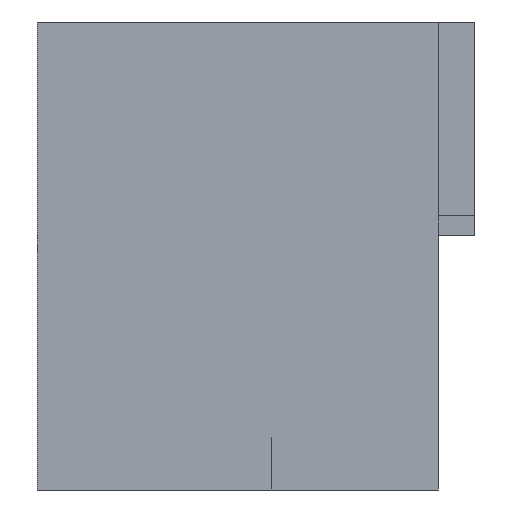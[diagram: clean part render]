
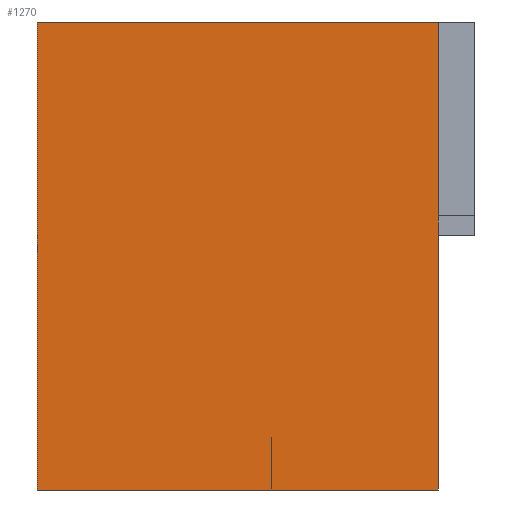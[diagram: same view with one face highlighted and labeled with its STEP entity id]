
A CAD part, front view. The second image highlights one B-rep face of the part: STEP entity #1270.
In plain terms, the highlighted planar face has unit normal (0, -1, 0).
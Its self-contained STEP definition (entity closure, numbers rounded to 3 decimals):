
#72 = PLANE('',#73);
#73 = AXIS2_PLACEMENT_3D('',#74,#75,#76);
#74 = CARTESIAN_POINT('',(38.5,14.2,1.6));
#75 = DIRECTION('',(1.,0.,0.));
#76 = DIRECTION('',(0.,0.,1.));
#100 = PLANE('',#101);
#101 = AXIS2_PLACEMENT_3D('',#102,#103,#104);
#102 = CARTESIAN_POINT('',(30.5,12.5,8.6));
#103 = DIRECTION('',(0.,0.,1.));
#104 = DIRECTION('',(1.,0.,-0.));
#379 = VERTEX_POINT('',#380);
#380 = CARTESIAN_POINT('',(38.5,14.2,8.6));
#524 = VERTEX_POINT('',#525);
#525 = CARTESIAN_POINT('',(32.5,14.2,8.6));
#539 = PLANE('',#540);
#540 = AXIS2_PLACEMENT_3D('',#541,#542,#543);
#541 = CARTESIAN_POINT('',(32.5,14.2,1.6));
#542 = DIRECTION('',(1.,0.,0.));
#543 = DIRECTION('',(0.,0.,1.));
#551 = EDGE_CURVE('',#524,#379,#552,.T.);
#552 = SURFACE_CURVE('',#553,(#557,#564),.PCURVE_S1.);
#553 = LINE('',#554,#555);
#554 = CARTESIAN_POINT('',(31.5,14.2,8.6));
#555 = VECTOR('',#556,1.);
#556 = DIRECTION('',(1.,0.,0.));
#557 = PCURVE('',#100,#558);
#558 = DEFINITIONAL_REPRESENTATION('',(#559),#563);
#559 = LINE('',#560,#561);
#560 = CARTESIAN_POINT('',(1.,1.7));
#561 = VECTOR('',#562,1.);
#562 = DIRECTION('',(1.,0.));
#563 = ( GEOMETRIC_REPRESENTATION_CONTEXT(2) 
PARAMETRIC_REPRESENTATION_CONTEXT() REPRESENTATION_CONTEXT('2D SPACE',''
  ) );
#564 = PCURVE('',#565,#570);
#565 = PLANE('',#566);
#566 = AXIS2_PLACEMENT_3D('',#567,#568,#569);
#567 = CARTESIAN_POINT('',(32.5,14.2,1.6));
#568 = DIRECTION('',(0.,1.,0.));
#569 = DIRECTION('',(0.,-0.,1.));
#570 = DEFINITIONAL_REPRESENTATION('',(#571),#575);
#571 = LINE('',#572,#573);
#572 = CARTESIAN_POINT('',(7.,-1.));
#573 = VECTOR('',#574,1.);
#574 = DIRECTION('',(0.,1.));
#575 = ( GEOMETRIC_REPRESENTATION_CONTEXT(2) 
PARAMETRIC_REPRESENTATION_CONTEXT() REPRESENTATION_CONTEXT('2D SPACE',''
  ) );
#686 = EDGE_CURVE('',#687,#379,#689,.T.);
#687 = VERTEX_POINT('',#688);
#688 = CARTESIAN_POINT('',(38.5,14.2,1.6));
#689 = SURFACE_CURVE('',#690,(#694,#701),.PCURVE_S1.);
#690 = LINE('',#691,#692);
#691 = CARTESIAN_POINT('',(38.5,14.2,1.6));
#692 = VECTOR('',#693,1.);
#693 = DIRECTION('',(0.,0.,1.));
#694 = PCURVE('',#72,#695);
#695 = DEFINITIONAL_REPRESENTATION('',(#696),#700);
#696 = LINE('',#697,#698);
#697 = CARTESIAN_POINT('',(0.,0.));
#698 = VECTOR('',#699,1.);
#699 = DIRECTION('',(1.,0.));
#700 = ( GEOMETRIC_REPRESENTATION_CONTEXT(2) 
PARAMETRIC_REPRESENTATION_CONTEXT() REPRESENTATION_CONTEXT('2D SPACE',''
  ) );
#701 = PCURVE('',#565,#702);
#702 = DEFINITIONAL_REPRESENTATION('',(#703),#707);
#703 = LINE('',#704,#705);
#704 = CARTESIAN_POINT('',(0.,6.));
#705 = VECTOR('',#706,1.);
#706 = DIRECTION('',(1.,0.));
#707 = ( GEOMETRIC_REPRESENTATION_CONTEXT(2) 
PARAMETRIC_REPRESENTATION_CONTEXT() REPRESENTATION_CONTEXT('2D SPACE',''
  ) );
#725 = PLANE('',#726);
#726 = AXIS2_PLACEMENT_3D('',#727,#728,#729);
#727 = CARTESIAN_POINT('',(32.5,14.2,1.6));
#728 = DIRECTION('',(0.,0.,1.));
#729 = DIRECTION('',(1.,0.,-0.));
#1270 = ADVANCED_FACE('',(#1271),#565,.F.);
#1271 = FACE_BOUND('',#1272,.F.);
#1272 = EDGE_LOOP('',(#1273,#1274,#1297,#1318));
#1273 = ORIENTED_EDGE('',*,*,#686,.F.);
#1274 = ORIENTED_EDGE('',*,*,#1275,.F.);
#1275 = EDGE_CURVE('',#1276,#687,#1278,.T.);
#1276 = VERTEX_POINT('',#1277);
#1277 = CARTESIAN_POINT('',(32.5,14.2,1.6));
#1278 = SURFACE_CURVE('',#1279,(#1283,#1290),.PCURVE_S1.);
#1279 = LINE('',#1280,#1281);
#1280 = CARTESIAN_POINT('',(32.5,14.2,1.6));
#1281 = VECTOR('',#1282,1.);
#1282 = DIRECTION('',(1.,0.,0.));
#1283 = PCURVE('',#565,#1284);
#1284 = DEFINITIONAL_REPRESENTATION('',(#1285),#1289);
#1285 = LINE('',#1286,#1287);
#1286 = CARTESIAN_POINT('',(0.,0.));
#1287 = VECTOR('',#1288,1.);
#1288 = DIRECTION('',(0.,1.));
#1289 = ( GEOMETRIC_REPRESENTATION_CONTEXT(2) 
PARAMETRIC_REPRESENTATION_CONTEXT() REPRESENTATION_CONTEXT('2D SPACE',''
  ) );
#1290 = PCURVE('',#725,#1291);
#1291 = DEFINITIONAL_REPRESENTATION('',(#1292),#1296);
#1292 = LINE('',#1293,#1294);
#1293 = CARTESIAN_POINT('',(0.,0.));
#1294 = VECTOR('',#1295,1.);
#1295 = DIRECTION('',(1.,0.));
#1296 = ( GEOMETRIC_REPRESENTATION_CONTEXT(2) 
PARAMETRIC_REPRESENTATION_CONTEXT() REPRESENTATION_CONTEXT('2D SPACE',''
  ) );
#1297 = ORIENTED_EDGE('',*,*,#1298,.T.);
#1298 = EDGE_CURVE('',#1276,#524,#1299,.T.);
#1299 = SURFACE_CURVE('',#1300,(#1304,#1311),.PCURVE_S1.);
#1300 = LINE('',#1301,#1302);
#1301 = CARTESIAN_POINT('',(32.5,14.2,1.6));
#1302 = VECTOR('',#1303,1.);
#1303 = DIRECTION('',(0.,0.,1.));
#1304 = PCURVE('',#565,#1305);
#1305 = DEFINITIONAL_REPRESENTATION('',(#1306),#1310);
#1306 = LINE('',#1307,#1308);
#1307 = CARTESIAN_POINT('',(0.,0.));
#1308 = VECTOR('',#1309,1.);
#1309 = DIRECTION('',(1.,0.));
#1310 = ( GEOMETRIC_REPRESENTATION_CONTEXT(2) 
PARAMETRIC_REPRESENTATION_CONTEXT() REPRESENTATION_CONTEXT('2D SPACE',''
  ) );
#1311 = PCURVE('',#539,#1312);
#1312 = DEFINITIONAL_REPRESENTATION('',(#1313),#1317);
#1313 = LINE('',#1314,#1315);
#1314 = CARTESIAN_POINT('',(0.,0.));
#1315 = VECTOR('',#1316,1.);
#1316 = DIRECTION('',(1.,0.));
#1317 = ( GEOMETRIC_REPRESENTATION_CONTEXT(2) 
PARAMETRIC_REPRESENTATION_CONTEXT() REPRESENTATION_CONTEXT('2D SPACE',''
  ) );
#1318 = ORIENTED_EDGE('',*,*,#551,.T.);
